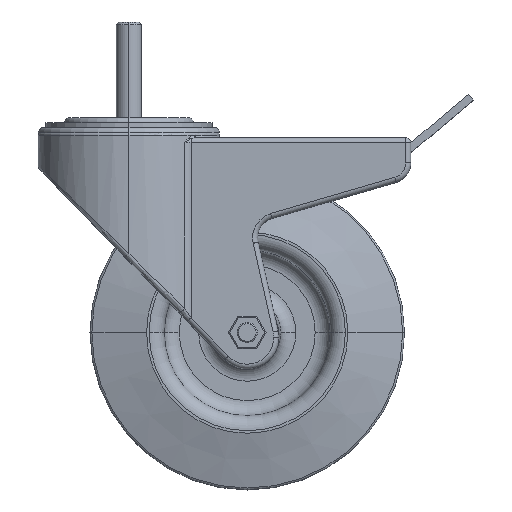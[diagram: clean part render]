
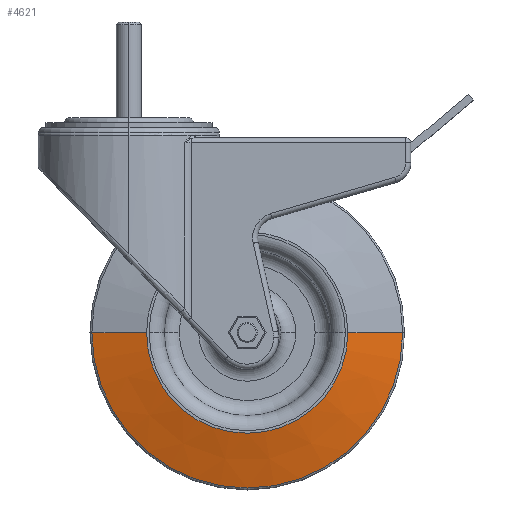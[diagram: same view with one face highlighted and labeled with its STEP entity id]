
A CAD part, top view. The second image highlights one B-rep face of the part: STEP entity #4621.
In plain terms, the highlighted conical face has half-angle 74.525 degrees and reference radius 61.767 mm.
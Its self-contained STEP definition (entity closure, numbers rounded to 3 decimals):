
#45 = CONICAL_SURFACE ( 'NONE', #2112, 61.767, 1.301 ) ;
#226 = CARTESIAN_POINT ( 'NONE',  ( 144.767, -71.442, 48.974 ) ) ;
#285 = CIRCLE ( 'NONE', #3711, 40. ) ;
#797 = DIRECTION ( 'NONE',  ( 1., 0., 0. ) ) ;
#833 = DIRECTION ( 'NONE',  ( 0., 0., 1. ) ) ;
#901 = VECTOR ( 'NONE', #3832, 1000. ) ;
#1123 = LINE ( 'NONE', #3760, #901 ) ;
#1131 = LINE ( 'NONE', #1294, #6051 ) ;
#1221 = VERTEX_POINT ( 'NONE', #3380 ) ;
#1294 = CARTESIAN_POINT ( 'NONE',  ( 21.233, -71.442, 48.974 ) ) ;
#1404 = ORIENTED_EDGE ( 'NONE', *, *, #4002, .F. ) ;
#1607 = EDGE_CURVE ( 'NONE', #3112, #5591, #1988, .T. ) ;
#1988 = CIRCLE ( 'NONE', #5180, 61.767 ) ;
#2112 = AXIS2_PLACEMENT_3D ( 'NONE', #3491, #4960, #3468 ) ;
#2218 = EDGE_CURVE ( 'NONE', #1221, #3112, #1131, .T. ) ;
#2622 = EDGE_CURVE ( 'NONE', #4626, #5591, #1123, .T. ) ;
#2699 = DIRECTION ( 'NONE',  ( 1., 0., 0. ) ) ;
#2831 = CARTESIAN_POINT ( 'NONE',  ( 83., -71.442, 55. ) ) ;
#2910 = CARTESIAN_POINT ( 'NONE',  ( 123., -71.442, 55. ) ) ;
#3112 = VERTEX_POINT ( 'NONE', #4342 ) ;
#3215 = ORIENTED_EDGE ( 'NONE', *, *, #2218, .T. ) ;
#3380 = CARTESIAN_POINT ( 'NONE',  ( 43., -71.442, 55. ) ) ;
#3468 = DIRECTION ( 'NONE',  ( -1., 0., 0. ) ) ;
#3491 = CARTESIAN_POINT ( 'NONE',  ( 83., -71.442, 48.974 ) ) ;
#3679 = FACE_OUTER_BOUND ( 'NONE', #4061, .T. ) ;
#3711 = AXIS2_PLACEMENT_3D ( 'NONE', #2831, #833, #797 ) ;
#3760 = CARTESIAN_POINT ( 'NONE',  ( 144.767, -71.442, 48.974 ) ) ;
#3808 = DIRECTION ( 'NONE',  ( 0., 0., 1. ) ) ;
#3832 = DIRECTION ( 'NONE',  ( 0.964, 0., -0.267 ) ) ;
#4002 = EDGE_CURVE ( 'NONE', #1221, #4626, #285, .T. ) ;
#4061 = EDGE_LOOP ( 'NONE', ( #5911, #1404, #3215, #5419 ) ) ;
#4342 = CARTESIAN_POINT ( 'NONE',  ( 21.233, -71.442, 48.974 ) ) ;
#4621 = ADVANCED_FACE ( 'NONE', ( #3679 ), #45, .T. ) ;
#4626 = VERTEX_POINT ( 'NONE', #2910 ) ;
#4806 = CARTESIAN_POINT ( 'NONE',  ( 83., -71.442, 48.974 ) ) ;
#4960 = DIRECTION ( 'NONE',  ( 0., 0., -1. ) ) ;
#5180 = AXIS2_PLACEMENT_3D ( 'NONE', #4806, #3808, #2699 ) ;
#5419 = ORIENTED_EDGE ( 'NONE', *, *, #1607, .T. ) ;
#5591 = VERTEX_POINT ( 'NONE', #226 ) ;
#5911 = ORIENTED_EDGE ( 'NONE', *, *, #2622, .F. ) ;
#6051 = VECTOR ( 'NONE', #6121, 1000. ) ;
#6121 = DIRECTION ( 'NONE',  ( -0.964, 0., -0.267 ) ) ;
